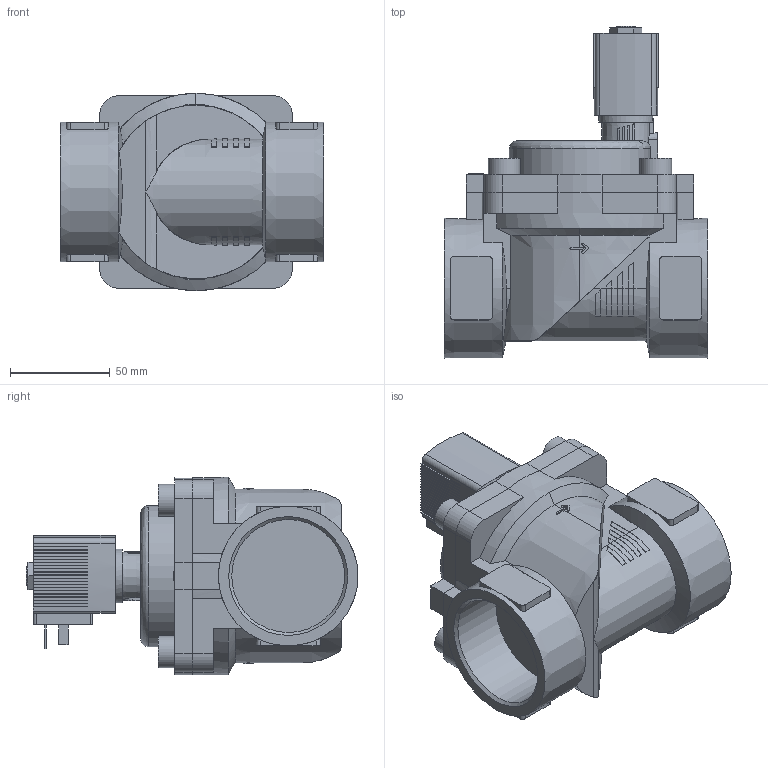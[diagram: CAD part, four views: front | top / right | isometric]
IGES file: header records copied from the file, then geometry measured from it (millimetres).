
Start section: Data from Parasolid IGES Translator 26.0.171, Copyright(c) 2006 Siemens PLM Software. All Rights Reserved.
Global section: file name: 6281-262316-2_2-Way_Solenoid_Valve__Servo-assisted__General_Purpose.igs; native system: By Siemens PLM Incorporated; preprocessor: XPlus GENERIC/IGES 26.0.171; author: Noname; organization: Noname; date: 20240830.211922; units: millimetre
Bounding box: 132 x 166.5 x 99 mm (x, y, z)
Surface area: 103435.4 mm2 (no closed solid volume)
Topology: 0 solids, 0 shells, 562 faces, 3150 edges, 3132 vertices
Faces by surface type: extrusion 436, revolution 126
